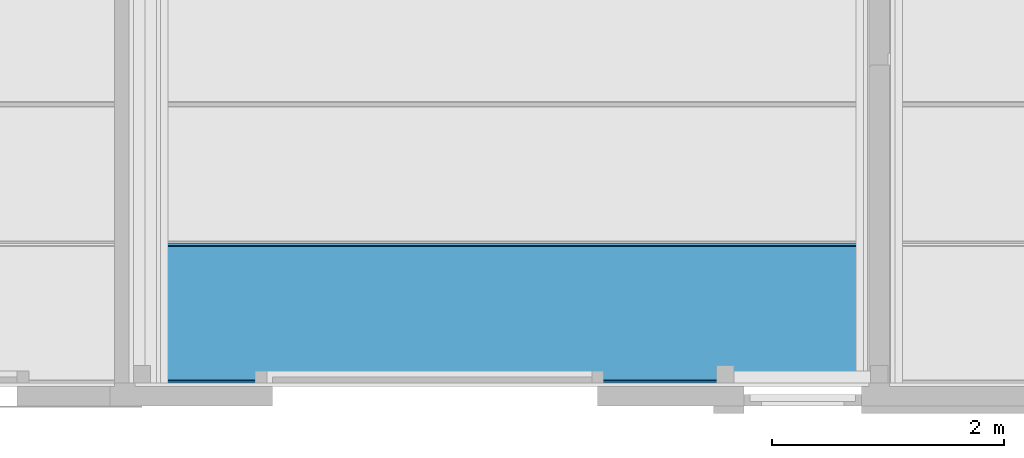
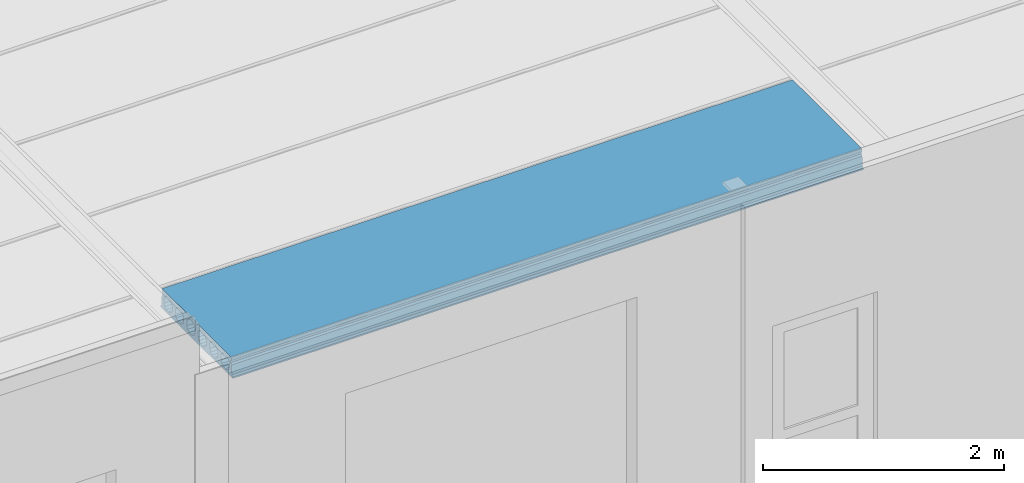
# One storey, part 6 of 45: 1 beam.
"""IFC2X3 building model written with IfcOpenShell, lengths in millimetres."""

from ifc_helpers import new_model, entity, si_unit, converted_unit, frame, origin, place, context, subcontext, project, spatial, faceted_brep, material, element, save


model = new_model("IFC2X3")

# Units and contexts
model_context = context("Model", 3, precision=1e-05, world=origin())
plan_context = context("Plan", 3, precision=1e-05, world=origin())
body_context = subcontext(model_context, "Body", "Model", "MODEL_VIEW")
ifc_project = project(units=[si_unit("LENGTHUNIT", "METRE", prefix="MILLI"), converted_unit("PLANEANGLEUNIT", "DEGREE", entity("IfcPlaneAngleMeasure", 0.0174532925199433), si_unit("PLANEANGLEUNIT", "RADIAN"), dimensions=[0, 0, 0, 0, 0, 0, 0]), si_unit("AREAUNIT", "SQUARE_METRE"), si_unit("VOLUMEUNIT", "CUBIC_METRE")], contexts=[model_context, plan_context])

# Building, storey
building_placement = place(None, origin())
building = spatial("IfcBuilding", under=ifc_project, at=building_placement, Name="HEKF Administrasjonbygg", CompositionType="ELEMENT")
storey_placement = place(building_placement, frame((0.0, 0.0, 6500.0), z_axis=(0.0, 0.0, 1.0), x_axis=(1.0, 0.0, 0.0)))
storey = spatial("IfcBuildingStorey", under=building, at=storey_placement, Name="Plan 1", CompositionType="ELEMENT", Elevation=6500.0)

# Beam
ifc_material = material()
beam_placement = place(storey_placement, frame((0.0, 0.0, -6500.0), z_axis=(0.0, 0.0, 1.0), x_axis=(1.0, 0.0, 0.0)))
element("IfcBeam", 1, at=beam_placement, inside=storey, material=ifc_material, context=body_context, shape_type="Brep", body=[
    faceted_brep([(10135.0, -10799.99999999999, 9684.999999), (10135.0, -10799.99999999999, 9670.0), (16189.99999999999, -10800.0, 9670.000000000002), (16189.99999999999, -10800.0, 9684.999999), (10135.0, -11999.99999999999, 9684.999999), (10135.0, -11999.99999999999, 9670.0), (10135.0, -10799.99999999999, 9670.0), (10135.0, -10799.99999999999, 9684.999999), (10135.0, -10814.99987952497, 9699.999998), (10135.0, -10820.00000203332, 9794.999985), (10135.0, -10835.00000355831, 9809.999985), (10135.0, -10835.00000355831, 9829.999985), (10135.0, -10822.72729731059, 9842.272583), (10135.0, -10824.04773244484, 9870.0), (10135.0, -11975.95237255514, 9870.0), (10135.0, -11977.27272968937, 9842.272735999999), (10135.0, -11965.00000044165, 9829.999985), (10135.0, -11965.00000044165, 9809.999985), (10135.0, -11980.00000196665, 9794.999985), (10135.0, -11984.99999947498, 9699.999998), (10135.0, -11874.99998729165, 9694.999989), (10135.0, -11903.70126120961, 9700.709023), (10135.0, -11928.03302068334, 9716.966995), (10135.0, -11944.29096433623, 9741.298752), (10135.0, -11944.29096033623, 9798.701262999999), (10135.0, -11928.03299768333, 9823.03299), (10135.0, -11903.70124620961, 9839.290955), (10135.0, -11874.99998729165, 9845.0), (10135.0, -11846.29872137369, 9839.290955), (10135.0, -11821.96697689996, 9823.033005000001), (10135.0, -11805.70901024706, 9798.701233), (10135.0, -11805.70898024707, 9741.298767), (10135.0, -11821.96696189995, 9716.966995), (10135.0, -11846.29870537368, 9700.709023), (10135.0, -11684.99996797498, 9694.999989), (10135.0, -11713.70124189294, 9700.709023), (10135.0, -11738.03300136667, 9716.966995), (10135.0, -11754.29094501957, 9741.298752), (10135.0, -11754.29094101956, 9798.701262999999), (10135.0, -11738.03297836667, 9823.03299), (10135.0, -11713.70122689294, 9839.290955), (10135.0, -11684.99996797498, 9845.0), (10135.0, -11656.29870205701, 9839.290955), (10135.0, -11631.9669575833, 9823.033005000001), (10135.0, -11615.7089909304, 9798.701233), (10135.0, -11615.7089609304, 9741.298767), (10135.0, -11631.96694258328, 9716.966995), (10135.0, -11656.29868605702, 9700.709023), (10135.0, -11494.99994865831, 9694.999989), (10135.0, -11523.70122257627, 9700.709023), (10135.0, -11548.03298205, 9716.966995), (10135.0, -11564.2909257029, 9741.298752), (10135.0, -11564.29092170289, 9798.701262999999), (10135.0, -11548.03295905, 9823.03299), (10135.0, -11523.70120757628, 9839.290955), (10135.0, -11494.99994865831, 9845.0), (10135.0, -11466.29868274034, 9839.290955), (10135.0, -11441.96693826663, 9823.033005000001), (10135.0, -11425.70897161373, 9798.701233), (10135.0, -11425.70894161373, 9741.298767), (10135.0, -11441.96692326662, 9716.966995), (10135.0, -11466.29866674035, 9700.709023), (10135.0, -11304.99992934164, 9694.999989), (10135.0, -11333.7012032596, 9700.709023), (10135.0, -11358.03296273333, 9716.966995), (10135.0, -11374.29090638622, 9741.298752), (10135.0, -11374.29090238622, 9798.701262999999), (10135.0, -11358.03293973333, 9823.03299), (10135.0, -11333.70118825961, 9839.290955), (10135.0, -11304.99992934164, 9845.0), (10135.0, -11276.29866342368, 9839.290955), (10135.0, -11251.96691894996, 9823.033005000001), (10135.0, -11235.70895229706, 9798.701233), (10135.0, -11235.70892229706, 9741.298767), (10135.0, -11251.96690394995, 9716.966995), (10135.0, -11276.29864742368, 9700.709023), (10135.0, -11114.99991002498, 9694.999989), (10135.0, -11143.70118394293, 9700.709023), (10135.0, -11168.03294341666, 9716.966995), (10135.0, -11184.29088706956, 9741.298752), (10135.0, -11184.29088306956, 9798.701262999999), (10135.0, -11168.03292041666, 9823.03299), (10135.0, -11143.70116894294, 9839.290955), (10135.0, -11114.99991002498, 9845.0), (10135.0, -11086.29864410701, 9839.290955), (10135.0, -11061.96689963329, 9823.033005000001), (10135.0, -11045.70893298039, 9798.701233), (10135.0, -11045.70890298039, 9741.298767), (10135.0, -11061.96688463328, 9716.966995), (10135.0, -11086.29862810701, 9700.709023), (10135.0, -10924.99989070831, 9694.999989), (10135.0, -10953.70116462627, 9700.709023), (10135.0, -10978.03292409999, 9716.966995), (10135.0, -10994.29086775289, 9741.298752), (10135.0, -10994.29086375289, 9798.701262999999), (10135.0, -10978.03290109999, 9823.03299), (10135.0, -10953.70114962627, 9839.290955), (10135.0, -10924.99989070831, 9845.0), (10135.0, -10896.29862479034, 9839.290955), (10135.0, -10871.96688031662, 9823.033005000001), (10135.0, -10855.70891366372, 9798.701233), (10135.0, -10855.70888366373, 9741.298767), (10135.0, -10871.96686531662, 9716.966995), (10135.0, -10896.29860879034, 9700.709023), (16190.0, -12000.0, 9684.999999), (16190.0, -12000.0, 9670.0), (10135.0, -11999.99999999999, 9670.0), (10135.0, -11999.99999999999, 9684.999999), (16189.99999999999, -10800.0, 9684.999999), (16189.99999999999, -10800.0, 9670.000000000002), (16190.0, -12000.0, 9670.0), (16190.0, -12000.0, 9684.999999), (16190.0, -11984.999999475, 9699.999998), (16190.0, -11980.00000196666, 9794.999985), (16190.0, -11965.00000044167, 9809.999985), (16190.0, -11965.00000044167, 9829.999985), (16190.0, -11977.27272968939, 9842.272735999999), (16190.0, -11975.95237255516, 9870.0), (16190.0, -10824.04773244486, 9870.0), (16190.0, -10822.72729731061, 9842.272583), (16190.0, -10835.00000355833, 9829.999985), (16190.0, -10835.00000355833, 9809.999985), (16190.0, -10820.00000203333, 9794.999985), (16190.0, -10814.99987952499, 9699.999998), (16190.0, -10924.99989070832, 9694.999989), (16190.0, -10896.29860879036, 9700.709023), (16190.0, -10871.96686531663, 9716.966995), (16190.0, -10855.70888366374, 9741.298767), (16190.0, -10855.70891366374, 9798.701233), (16190.0, -10871.96688031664, 9823.033005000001), (16190.0, -10896.29862479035, 9839.290955), (16190.0, -10924.99989070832, 9845.0), (16190.0, -10953.70114962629, 9839.290955), (16190.0, -10978.03290110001, 9823.03299), (16190.0, -10994.2908637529, 9798.701262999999), (16190.0, -10994.29086775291, 9741.298752), (16190.0, -10978.03292410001, 9716.966995), (16190.0, -10953.70116462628, 9700.709023), (16190.0, -11114.99991002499, 9694.999989), (16190.0, -11086.29862810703, 9700.709023), (16190.0, -11061.96688463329, 9716.966995), (16190.0, -11045.70890298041, 9741.298767), (16190.0, -11045.70893298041, 9798.701233), (16190.0, -11061.96689963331, 9823.033005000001), (16190.0, -11086.29864410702, 9839.290955), (16190.0, -11114.99991002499, 9845.0), (16190.0, -11143.70116894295, 9839.290955), (16190.0, -11168.03292041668, 9823.03299), (16190.0, -11184.29088306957, 9798.701262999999), (16190.0, -11184.29088706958, 9741.298752), (16190.0, -11168.03294341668, 9716.966995), (16190.0, -11143.70118394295, 9700.709023), (16190.0, -11304.99992934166, 9694.999989), (16190.0, -11276.29864742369, 9700.709023), (16190.0, -11251.96690394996, 9716.966995), (16190.0, -11235.70892229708, 9741.298767), (16190.0, -11235.70895229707, 9798.701233), (16190.0, -11251.96691894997, 9823.033005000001), (16190.0, -11276.2986634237, 9839.290955), (16190.0, -11304.99992934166, 9845.0), (16190.0, -11333.70118825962, 9839.290955), (16190.0, -11358.03293973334, 9823.03299), (16190.0, -11374.29090238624, 9798.701262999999), (16190.0, -11374.29090638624, 9741.298752), (16190.0, -11358.03296273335, 9716.966995), (16190.0, -11333.70120325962, 9700.709023), (16190.0, -11494.99994865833, 9694.999989), (16190.0, -11466.29866674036, 9700.709023), (16190.0, -11441.96692326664, 9716.966995), (16190.0, -11425.70894161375, 9741.298767), (16190.0, -11425.70897161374, 9798.701233), (16190.0, -11441.96693826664, 9823.033005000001), (16190.0, -11466.29868274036, 9839.290955), (16190.0, -11494.99994865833, 9845.0), (16190.0, -11523.70120757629, 9839.290955), (16190.0, -11548.03295905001, 9823.03299), (16190.0, -11564.29092170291, 9798.701262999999), (16190.0, -11564.29092570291, 9741.298752), (16190.0, -11548.03298205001, 9716.966995), (16190.0, -11523.70122257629, 9700.709023), (16190.0, -11684.999967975, 9694.999989), (16190.0, -11656.29868605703, 9700.709023), (16190.0, -11631.9669425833, 9716.966995), (16190.0, -11615.70896093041, 9741.298767), (16190.0, -11615.70899093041, 9798.701233), (16190.0, -11631.96695758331, 9823.033005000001), (16190.0, -11656.29870205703, 9839.290955), (16190.0, -11684.999967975, 9845.0), (16190.0, -11713.70122689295, 9839.290955), (16190.0, -11738.03297836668, 9823.03299), (16190.0, -11754.29094101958, 9798.701262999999), (16190.0, -11754.29094501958, 9741.298752), (16190.0, -11738.03300136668, 9716.966995), (16190.0, -11713.70124189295, 9700.709023), (16190.0, -11874.99998729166, 9694.999989), (16190.0, -11846.29870537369, 9700.709023), (16190.0, -11821.96696189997, 9716.966995), (16190.0, -11805.70898024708, 9741.298767), (16190.0, -11805.70901024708, 9798.701233), (16190.0, -11821.96697689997, 9823.033005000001), (16190.0, -11846.2987213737, 9839.290955), (16190.0, -11874.99998729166, 9845.0), (16190.0, -11903.70124620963, 9839.290955), (16190.0, -11928.03299768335, 9823.03299), (16190.0, -11944.29096033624, 9798.701262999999), (16190.0, -11944.29096433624, 9741.298752), (16190.0, -11928.03302068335, 9716.966995), (16190.0, -11903.70126120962, 9700.709023), (10135.0, -11999.99999999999, 9684.999999), (10135.0, -11984.99999947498, 9699.999998), (16190.0, -11984.999999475, 9699.999998), (16190.0, -12000.0, 9684.999999), (10135.0, -11984.99999947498, 9699.999998), (10135.0, -11980.00000196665, 9794.999985), (16190.0, -11980.00000196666, 9794.999985), (16190.0, -11984.999999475, 9699.999998), (10135.0, -11980.00000196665, 9794.999985), (10135.0, -11965.00000044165, 9809.999985), (16190.0, -11965.00000044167, 9809.999985), (16190.0, -11980.00000196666, 9794.999985), (10135.0, -11965.00000044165, 9809.999985), (10135.0, -11965.00000044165, 9829.999985), (16190.0, -11965.00000044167, 9829.999985), (16190.0, -11965.00000044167, 9809.999985), (10135.0, -11965.00000044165, 9829.999985), (10135.0, -11977.27272968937, 9842.272735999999), (16190.0, -11977.27272968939, 9842.272735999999), (16190.0, -11965.00000044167, 9829.999985), (10135.0, -11977.27272968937, 9842.272735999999), (10135.0, -11975.95237255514, 9870.0), (16190.0, -11975.95237255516, 9870.0), (16190.0, -11977.27272968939, 9842.272735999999), (10135.0, -11975.95237255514, 9870.0), (10135.0, -10824.04773244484, 9870.0), (16190.0, -10824.04773244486, 9870.0), (16190.0, -11975.95237255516, 9870.0), (10135.0, -10824.04773244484, 9870.0), (10135.0, -10822.72729731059, 9842.272583), (16190.0, -10822.72729731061, 9842.272583), (16190.0, -10824.04773244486, 9870.0), (10135.0, -10822.72729731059, 9842.272583), (10135.0, -10835.00000355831, 9829.999985), (16190.0, -10835.00000355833, 9829.999985), (16190.0, -10822.72729731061, 9842.272583), (10135.0, -10835.00000355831, 9829.999985), (10135.0, -10835.00000355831, 9809.999985), (16190.0, -10835.00000355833, 9809.999985), (16190.0, -10835.00000355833, 9829.999985), (10135.0, -10835.00000355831, 9809.999985), (10135.0, -10820.00000203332, 9794.999985), (16190.0, -10820.00000203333, 9794.999985), (16190.0, -10835.00000355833, 9809.999985), (10135.0, -10820.00000203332, 9794.999985), (10135.0, -10814.99987952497, 9699.999998), (16190.0, -10814.99987952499, 9699.999998), (16190.0, -10820.00000203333, 9794.999985), (10135.0, -10814.99987952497, 9699.999998), (10135.0, -10799.99999999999, 9684.999999), (16189.99999999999, -10800.0, 9684.999999), (16190.0, -10814.99987952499, 9699.999998), (10135.0, -10799.99999999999, 9670.0), (10135.0, -11999.99999999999, 9670.0), (16190.0, -12000.0, 9670.0), (16189.99999999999, -10800.0, 9670.000000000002), (10135.0, -10924.99989070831, 9694.999989), (10135.0, -10896.29860879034, 9700.709023), (16190.0, -10896.29860879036, 9700.709023), (16190.0, -10924.99989070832, 9694.999989), (10135.0, -10896.29860879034, 9700.709023), (10135.0, -10871.96686531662, 9716.966995), (16190.0, -10871.96686531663, 9716.966995), (16190.0, -10896.29860879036, 9700.709023), (10135.0, -10871.96686531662, 9716.966995), (10135.0, -10855.70888366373, 9741.298767), (16190.0, -10855.70888366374, 9741.298767), (16190.0, -10871.96686531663, 9716.966995), (10135.0, -10855.70888366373, 9741.298767), (10135.0, -10855.70891366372, 9798.701233), (16190.0, -10855.70891366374, 9798.701233), (16190.0, -10855.70888366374, 9741.298767), (10135.0, -10855.70891366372, 9798.701233), (10135.0, -10871.96688031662, 9823.033005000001), (16190.0, -10871.96688031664, 9823.033005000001), (16190.0, -10855.70891366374, 9798.701233), (10135.0, -10871.96688031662, 9823.033005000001), (10135.0, -10896.29862479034, 9839.290955), (16190.0, -10896.29862479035, 9839.290955), (16190.0, -10871.96688031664, 9823.033005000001), (10135.0, -10896.29862479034, 9839.290955), (10135.0, -10924.99989070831, 9845.0), (16190.0, -10924.99989070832, 9845.0), (16190.0, -10896.29862479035, 9839.290955), (10135.0, -10924.99989070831, 9845.0), (10135.0, -10953.70114962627, 9839.290955), (16190.0, -10953.70114962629, 9839.290955), (16190.0, -10924.99989070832, 9845.0), (10135.0, -10953.70114962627, 9839.290955), (10135.0, -10978.03290109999, 9823.03299), (16190.0, -10978.03290110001, 9823.03299), (16190.0, -10953.70114962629, 9839.290955), (10135.0, -10978.03290109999, 9823.03299), (10135.0, -10994.29086375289, 9798.701262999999), (16190.0, -10994.2908637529, 9798.701262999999), (16190.0, -10978.03290110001, 9823.03299), (10135.0, -10994.29086375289, 9798.701262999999), (10135.0, -10994.29086775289, 9741.298752), (16190.0, -10994.29086775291, 9741.298752), (16190.0, -10994.2908637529, 9798.701262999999), (10135.0, -10994.29086775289, 9741.298752), (10135.0, -10978.03292409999, 9716.966995), (16190.0, -10978.03292410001, 9716.966995), (16190.0, -10994.29086775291, 9741.298752), (10135.0, -10978.03292409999, 9716.966995), (10135.0, -10953.70116462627, 9700.709023), (16190.0, -10953.70116462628, 9700.709023), (16190.0, -10978.03292410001, 9716.966995), (10135.0, -10953.70116462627, 9700.709023), (10135.0, -10924.99989070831, 9694.999989), (16190.0, -10924.99989070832, 9694.999989), (16190.0, -10953.70116462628, 9700.709023), (10135.0, -11114.99991002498, 9694.999989), (10135.0, -11086.29862810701, 9700.709023), (16190.0, -11086.29862810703, 9700.709023), (16190.0, -11114.99991002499, 9694.999989), (10135.0, -11086.29862810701, 9700.709023), (10135.0, -11061.96688463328, 9716.966995), (16190.0, -11061.96688463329, 9716.966995), (16190.0, -11086.29862810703, 9700.709023), (10135.0, -11061.96688463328, 9716.966995), (10135.0, -11045.70890298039, 9741.298767), (16190.0, -11045.70890298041, 9741.298767), (16190.0, -11061.96688463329, 9716.966995), (10135.0, -11045.70890298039, 9741.298767), (10135.0, -11045.70893298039, 9798.701233), (16190.0, -11045.70893298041, 9798.701233), (16190.0, -11045.70890298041, 9741.298767), (10135.0, -11045.70893298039, 9798.701233), (10135.0, -11061.96689963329, 9823.033005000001), (16190.0, -11061.96689963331, 9823.033005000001), (16190.0, -11045.70893298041, 9798.701233), (10135.0, -11061.96689963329, 9823.033005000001), (10135.0, -11086.29864410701, 9839.290955), (16190.0, -11086.29864410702, 9839.290955), (16190.0, -11061.96689963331, 9823.033005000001), (10135.0, -11086.29864410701, 9839.290955), (10135.0, -11114.99991002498, 9845.0), (16190.0, -11114.99991002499, 9845.0), (16190.0, -11086.29864410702, 9839.290955), (10135.0, -11114.99991002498, 9845.0), (10135.0, -11143.70116894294, 9839.290955), (16190.0, -11143.70116894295, 9839.290955), (16190.0, -11114.99991002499, 9845.0), (10135.0, -11143.70116894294, 9839.290955), (10135.0, -11168.03292041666, 9823.03299), (16190.0, -11168.03292041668, 9823.03299), (16190.0, -11143.70116894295, 9839.290955), (10135.0, -11168.03292041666, 9823.03299), (10135.0, -11184.29088306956, 9798.701262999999), (16190.0, -11184.29088306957, 9798.701262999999), (16190.0, -11168.03292041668, 9823.03299), (10135.0, -11184.29088306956, 9798.701262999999), (10135.0, -11184.29088706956, 9741.298752), (16190.0, -11184.29088706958, 9741.298752), (16190.0, -11184.29088306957, 9798.701262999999), (10135.0, -11184.29088706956, 9741.298752), (10135.0, -11168.03294341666, 9716.966995), (16190.0, -11168.03294341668, 9716.966995), (16190.0, -11184.29088706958, 9741.298752), (10135.0, -11168.03294341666, 9716.966995), (10135.0, -11143.70118394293, 9700.709023), (16190.0, -11143.70118394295, 9700.709023), (16190.0, -11168.03294341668, 9716.966995), (10135.0, -11143.70118394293, 9700.709023), (10135.0, -11114.99991002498, 9694.999989), (16190.0, -11114.99991002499, 9694.999989), (16190.0, -11143.70118394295, 9700.709023), (10135.0, -11304.99992934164, 9694.999989), (10135.0, -11276.29864742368, 9700.709023), (16190.0, -11276.29864742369, 9700.709023), (16190.0, -11304.99992934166, 9694.999989), (10135.0, -11276.29864742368, 9700.709023), (10135.0, -11251.96690394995, 9716.966995), (16190.0, -11251.96690394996, 9716.966995), (16190.0, -11276.29864742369, 9700.709023), (10135.0, -11251.96690394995, 9716.966995), (10135.0, -11235.70892229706, 9741.298767), (16190.0, -11235.70892229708, 9741.298767), (16190.0, -11251.96690394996, 9716.966995), (10135.0, -11235.70892229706, 9741.298767), (10135.0, -11235.70895229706, 9798.701233), (16190.0, -11235.70895229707, 9798.701233), (16190.0, -11235.70892229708, 9741.298767), (10135.0, -11235.70895229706, 9798.701233), (10135.0, -11251.96691894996, 9823.033005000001), (16190.0, -11251.96691894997, 9823.033005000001), (16190.0, -11235.70895229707, 9798.701233), (10135.0, -11251.96691894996, 9823.033005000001), (10135.0, -11276.29866342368, 9839.290955), (16190.0, -11276.2986634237, 9839.290955), (16190.0, -11251.96691894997, 9823.033005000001), (10135.0, -11276.29866342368, 9839.290955), (10135.0, -11304.99992934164, 9845.0), (16190.0, -11304.99992934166, 9845.0), (16190.0, -11276.2986634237, 9839.290955), (10135.0, -11304.99992934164, 9845.0), (10135.0, -11333.70118825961, 9839.290955), (16190.0, -11333.70118825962, 9839.290955), (16190.0, -11304.99992934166, 9845.0), (10135.0, -11333.70118825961, 9839.290955), (10135.0, -11358.03293973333, 9823.03299), (16190.0, -11358.03293973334, 9823.03299), (16190.0, -11333.70118825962, 9839.290955), (10135.0, -11358.03293973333, 9823.03299), (10135.0, -11374.29090238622, 9798.701262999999), (16190.0, -11374.29090238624, 9798.701262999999), (16190.0, -11358.03293973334, 9823.03299), (10135.0, -11374.29090238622, 9798.701262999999), (10135.0, -11374.29090638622, 9741.298752), (16190.0, -11374.29090638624, 9741.298752), (16190.0, -11374.29090238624, 9798.701262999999), (10135.0, -11374.29090638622, 9741.298752), (10135.0, -11358.03296273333, 9716.966995), (16190.0, -11358.03296273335, 9716.966995), (16190.0, -11374.29090638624, 9741.298752), (10135.0, -11358.03296273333, 9716.966995), (10135.0, -11333.7012032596, 9700.709023), (16190.0, -11333.70120325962, 9700.709023), (16190.0, -11358.03296273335, 9716.966995), (10135.0, -11333.7012032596, 9700.709023), (10135.0, -11304.99992934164, 9694.999989), (16190.0, -11304.99992934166, 9694.999989), (16190.0, -11333.70120325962, 9700.709023), (10135.0, -11494.99994865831, 9694.999989), (10135.0, -11466.29866674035, 9700.709023), (16190.0, -11466.29866674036, 9700.709023), (16190.0, -11494.99994865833, 9694.999989), (10135.0, -11466.29866674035, 9700.709023), (10135.0, -11441.96692326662, 9716.966995), (16190.0, -11441.96692326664, 9716.966995), (16190.0, -11466.29866674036, 9700.709023), (10135.0, -11441.96692326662, 9716.966995), (10135.0, -11425.70894161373, 9741.298767), (16190.0, -11425.70894161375, 9741.298767), (16190.0, -11441.96692326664, 9716.966995), (10135.0, -11425.70894161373, 9741.298767), (10135.0, -11425.70897161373, 9798.701233), (16190.0, -11425.70897161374, 9798.701233), (16190.0, -11425.70894161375, 9741.298767), (10135.0, -11425.70897161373, 9798.701233), (10135.0, -11441.96693826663, 9823.033005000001), (16190.0, -11441.96693826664, 9823.033005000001), (16190.0, -11425.70897161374, 9798.701233), (10135.0, -11441.96693826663, 9823.033005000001), (10135.0, -11466.29868274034, 9839.290955), (16190.0, -11466.29868274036, 9839.290955), (16190.0, -11441.96693826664, 9823.033005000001), (10135.0, -11466.29868274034, 9839.290955), (10135.0, -11494.99994865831, 9845.0), (16190.0, -11494.99994865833, 9845.0), (16190.0, -11466.29868274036, 9839.290955), (10135.0, -11494.99994865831, 9845.0), (10135.0, -11523.70120757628, 9839.290955), (16190.0, -11523.70120757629, 9839.290955), (16190.0, -11494.99994865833, 9845.0), (10135.0, -11523.70120757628, 9839.290955), (10135.0, -11548.03295905, 9823.03299), (16190.0, -11548.03295905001, 9823.03299), (16190.0, -11523.70120757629, 9839.290955), (10135.0, -11548.03295905, 9823.03299), (10135.0, -11564.29092170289, 9798.701262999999), (16190.0, -11564.29092170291, 9798.701262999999), (16190.0, -11548.03295905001, 9823.03299), (10135.0, -11564.29092170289, 9798.701262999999), (10135.0, -11564.2909257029, 9741.298752), (16190.0, -11564.29092570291, 9741.298752), (16190.0, -11564.29092170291, 9798.701262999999), (10135.0, -11564.2909257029, 9741.298752), (10135.0, -11548.03298205, 9716.966995), (16190.0, -11548.03298205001, 9716.966995), (16190.0, -11564.29092570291, 9741.298752), (10135.0, -11548.03298205, 9716.966995), (10135.0, -11523.70122257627, 9700.709023), (16190.0, -11523.70122257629, 9700.709023), (16190.0, -11548.03298205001, 9716.966995), (10135.0, -11523.70122257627, 9700.709023), (10135.0, -11494.99994865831, 9694.999989), (16190.0, -11494.99994865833, 9694.999989), (16190.0, -11523.70122257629, 9700.709023), (10135.0, -11684.99996797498, 9694.999989), (10135.0, -11656.29868605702, 9700.709023), (16190.0, -11656.29868605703, 9700.709023), (16190.0, -11684.999967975, 9694.999989), (10135.0, -11656.29868605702, 9700.709023), (10135.0, -11631.96694258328, 9716.966995), (16190.0, -11631.9669425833, 9716.966995), (16190.0, -11656.29868605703, 9700.709023), (10135.0, -11631.96694258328, 9716.966995), (10135.0, -11615.7089609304, 9741.298767), (16190.0, -11615.70896093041, 9741.298767), (16190.0, -11631.9669425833, 9716.966995), (10135.0, -11615.7089609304, 9741.298767), (10135.0, -11615.7089909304, 9798.701233), (16190.0, -11615.70899093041, 9798.701233), (16190.0, -11615.70896093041, 9741.298767), (10135.0, -11615.7089909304, 9798.701233), (10135.0, -11631.9669575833, 9823.033005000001), (16190.0, -11631.96695758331, 9823.033005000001), (16190.0, -11615.70899093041, 9798.701233), (10135.0, -11631.9669575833, 9823.033005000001), (10135.0, -11656.29870205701, 9839.290955), (16190.0, -11656.29870205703, 9839.290955), (16190.0, -11631.96695758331, 9823.033005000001), (10135.0, -11656.29870205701, 9839.290955), (10135.0, -11684.99996797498, 9845.0), (16190.0, -11684.999967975, 9845.0), (16190.0, -11656.29870205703, 9839.290955), (10135.0, -11684.99996797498, 9845.0), (10135.0, -11713.70122689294, 9839.290955), (16190.0, -11713.70122689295, 9839.290955), (16190.0, -11684.999967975, 9845.0), (10135.0, -11713.70122689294, 9839.290955), (10135.0, -11738.03297836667, 9823.03299), (16190.0, -11738.03297836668, 9823.03299), (16190.0, -11713.70122689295, 9839.290955), (10135.0, -11738.03297836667, 9823.03299), (10135.0, -11754.29094101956, 9798.701262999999), (16190.0, -11754.29094101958, 9798.701262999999), (16190.0, -11738.03297836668, 9823.03299), (10135.0, -11754.29094101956, 9798.701262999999), (10135.0, -11754.29094501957, 9741.298752), (16190.0, -11754.29094501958, 9741.298752), (16190.0, -11754.29094101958, 9798.701262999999), (10135.0, -11754.29094501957, 9741.298752), (10135.0, -11738.03300136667, 9716.966995), (16190.0, -11738.03300136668, 9716.966995), (16190.0, -11754.29094501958, 9741.298752), (10135.0, -11738.03300136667, 9716.966995), (10135.0, -11713.70124189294, 9700.709023), (16190.0, -11713.70124189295, 9700.709023), (16190.0, -11738.03300136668, 9716.966995), (10135.0, -11713.70124189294, 9700.709023), (10135.0, -11684.99996797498, 9694.999989), (16190.0, -11684.999967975, 9694.999989), (16190.0, -11713.70124189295, 9700.709023), (10135.0, -11874.99998729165, 9694.999989), (10135.0, -11846.29870537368, 9700.709023), (16190.0, -11846.29870537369, 9700.709023), (16190.0, -11874.99998729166, 9694.999989), (10135.0, -11846.29870537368, 9700.709023), (10135.0, -11821.96696189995, 9716.966995), (16190.0, -11821.96696189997, 9716.966995), (16190.0, -11846.29870537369, 9700.709023), (10135.0, -11821.96696189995, 9716.966995), (10135.0, -11805.70898024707, 9741.298767), (16190.0, -11805.70898024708, 9741.298767), (16190.0, -11821.96696189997, 9716.966995), (10135.0, -11805.70898024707, 9741.298767), (10135.0, -11805.70901024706, 9798.701233), (16190.0, -11805.70901024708, 9798.701233), (16190.0, -11805.70898024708, 9741.298767), (10135.0, -11805.70901024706, 9798.701233), (10135.0, -11821.96697689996, 9823.033005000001), (16190.0, -11821.96697689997, 9823.033005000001), (16190.0, -11805.70901024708, 9798.701233), (10135.0, -11821.96697689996, 9823.033005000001), (10135.0, -11846.29872137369, 9839.290955), (16190.0, -11846.2987213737, 9839.290955), (16190.0, -11821.96697689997, 9823.033005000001), (10135.0, -11846.29872137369, 9839.290955), (10135.0, -11874.99998729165, 9845.0), (16190.0, -11874.99998729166, 9845.0), (16190.0, -11846.2987213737, 9839.290955), (10135.0, -11874.99998729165, 9845.0), (10135.0, -11903.70124620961, 9839.290955), (16190.0, -11903.70124620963, 9839.290955), (16190.0, -11874.99998729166, 9845.0), (10135.0, -11903.70124620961, 9839.290955), (10135.0, -11928.03299768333, 9823.03299), (16190.0, -11928.03299768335, 9823.03299), (16190.0, -11903.70124620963, 9839.290955), (10135.0, -11928.03299768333, 9823.03299), (10135.0, -11944.29096033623, 9798.701262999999), (16190.0, -11944.29096033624, 9798.701262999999), (16190.0, -11928.03299768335, 9823.03299), (10135.0, -11944.29096033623, 9798.701262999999), (10135.0, -11944.29096433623, 9741.298752), (16190.0, -11944.29096433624, 9741.298752), (16190.0, -11944.29096033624, 9798.701262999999), (10135.0, -11944.29096433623, 9741.298752), (10135.0, -11928.03302068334, 9716.966995), (16190.0, -11928.03302068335, 9716.966995), (16190.0, -11944.29096433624, 9741.298752), (10135.0, -11928.03302068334, 9716.966995), (10135.0, -11903.70126120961, 9700.709023), (16190.0, -11903.70126120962, 9700.709023), (16190.0, -11928.03302068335, 9716.966995), (10135.0, -11903.70126120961, 9700.709023), (10135.0, -11874.99998729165, 9694.999989), (16190.0, -11874.99998729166, 9694.999989), (16190.0, -11903.70126120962, 9700.709023)], [[[0, 1, 2, 3]], [[4, 5, 6, 7, 8, 9, 10, 11, 12, 13, 14, 15, 16, 17, 18, 19], [20, 21, 22, 23, 24, 25, 26, 27, 28, 29, 30, 31, 32, 33], [34, 35, 36, 37, 38, 39, 40, 41, 42, 43, 44, 45, 46, 47], [48, 49, 50, 51, 52, 53, 54, 55, 56, 57, 58, 59, 60, 61], [62, 63, 64, 65, 66, 67, 68, 69, 70, 71, 72, 73, 74, 75], [76, 77, 78, 79, 80, 81, 82, 83, 84, 85, 86, 87, 88, 89], [90, 91, 92, 93, 94, 95, 96, 97, 98, 99, 100, 101, 102, 103]], [[104, 105, 106, 107]], [[108, 109, 110, 111, 112, 113, 114, 115, 116, 117, 118, 119, 120, 121, 122, 123], [124, 125, 126, 127, 128, 129, 130, 131, 132, 133, 134, 135, 136, 137], [138, 139, 140, 141, 142, 143, 144, 145, 146, 147, 148, 149, 150, 151], [152, 153, 154, 155, 156, 157, 158, 159, 160, 161, 162, 163, 164, 165], [166, 167, 168, 169, 170, 171, 172, 173, 174, 175, 176, 177, 178, 179], [180, 181, 182, 183, 184, 185, 186, 187, 188, 189, 190, 191, 192, 193], [194, 195, 196, 197, 198, 199, 200, 201, 202, 203, 204, 205, 206, 207]], [[208, 209, 210, 211]], [[212, 213, 214, 215]], [[216, 217, 218, 219]], [[220, 221, 222, 223]], [[224, 225, 226, 227]], [[228, 229, 230, 231]], [[232, 233, 234, 235]], [[236, 237, 238, 239]], [[240, 241, 242, 243]], [[244, 245, 246, 247]], [[248, 249, 250, 251]], [[252, 253, 254, 255]], [[256, 257, 258, 259]], [[260, 261, 262, 263]], [[264, 265, 266, 267]], [[268, 269, 270, 271]], [[272, 273, 274, 275]], [[276, 277, 278, 279]], [[280, 281, 282, 283]], [[284, 285, 286, 287]], [[288, 289, 290, 291]], [[292, 293, 294, 295]], [[296, 297, 298, 299]], [[300, 301, 302, 303]], [[304, 305, 306, 307]], [[308, 309, 310, 311]], [[312, 313, 314, 315]], [[316, 317, 318, 319]], [[320, 321, 322, 323]], [[324, 325, 326, 327]], [[328, 329, 330, 331]], [[332, 333, 334, 335]], [[336, 337, 338, 339]], [[340, 341, 342, 343]], [[344, 345, 346, 347]], [[348, 349, 350, 351]], [[352, 353, 354, 355]], [[356, 357, 358, 359]], [[360, 361, 362, 363]], [[364, 365, 366, 367]], [[368, 369, 370, 371]], [[372, 373, 374, 375]], [[376, 377, 378, 379]], [[380, 381, 382, 383]], [[384, 385, 386, 387]], [[388, 389, 390, 391]], [[392, 393, 394, 395]], [[396, 397, 398, 399]], [[400, 401, 402, 403]], [[404, 405, 406, 407]], [[408, 409, 410, 411]], [[412, 413, 414, 415]], [[416, 417, 418, 419]], [[420, 421, 422, 423]], [[424, 425, 426, 427]], [[428, 429, 430, 431]], [[432, 433, 434, 435]], [[436, 437, 438, 439]], [[440, 441, 442, 443]], [[444, 445, 446, 447]], [[448, 449, 450, 451]], [[452, 453, 454, 455]], [[456, 457, 458, 459]], [[460, 461, 462, 463]], [[464, 465, 466, 467]], [[468, 469, 470, 471]], [[472, 473, 474, 475]], [[476, 477, 478, 479]], [[480, 481, 482, 483]], [[484, 485, 486, 487]], [[488, 489, 490, 491]], [[492, 493, 494, 495]], [[496, 497, 498, 499]], [[500, 501, 502, 503]], [[504, 505, 506, 507]], [[508, 509, 510, 511]], [[512, 513, 514, 515]], [[516, 517, 518, 519]], [[520, 521, 522, 523]], [[524, 525, 526, 527]], [[528, 529, 530, 531]], [[532, 533, 534, 535]], [[536, 537, 538, 539]], [[540, 541, 542, 543]], [[544, 545, 546, 547]], [[548, 549, 550, 551]], [[552, 553, 554, 555]], [[556, 557, 558, 559]], [[560, 561, 562, 563]], [[564, 565, 566, 567]], [[568, 569, 570, 571]], [[572, 573, 574, 575]], [[576, 577, 578, 579]], [[580, 581, 582, 583]], [[584, 585, 586, 587]], [[588, 589, 590, 591]], [[592, 593, 594, 595]], [[596, 597, 598, 599]]], orient=[[False], [False, False, False, False, False, False, False], [False], [False, False, False, False, False, False, False], [False], [False], [False], [False], [False], [False], [False], [False], [False], [False], [False], [False], [False], [False], [False], [False], [False], [False], [False], [False], [False], [False], [False], [False], [False], [False], [False], [False], [False], [False], [False], [False], [False], [False], [False], [False], [False], [False], [False], [False], [False], [False], [False], [False], [False], [False], [False], [False], [False], [False], [False], [False], [False], [False], [False], [False], [False], [False], [False], [False], [False], [False], [False], [False], [False], [False], [False], [False], [False], [False], [False], [False], [False], [False], [False], [False], [False], [False], [False], [False], [False], [False], [False], [False], [False], [False], [False], [False], [False], [False], [False], [False], [False], [False], [False], [False], [False], [False]]),
])

save(model, "model.ifc")
